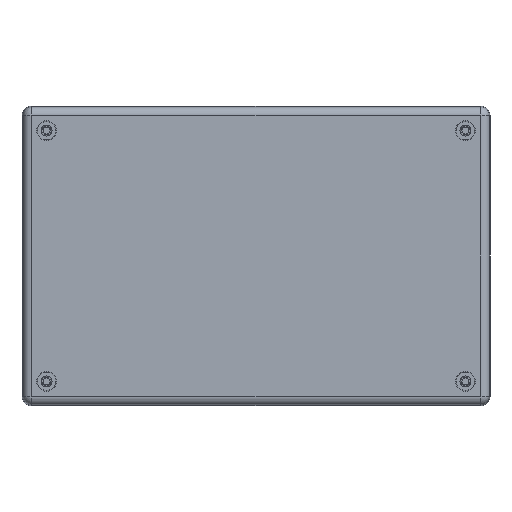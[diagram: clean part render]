
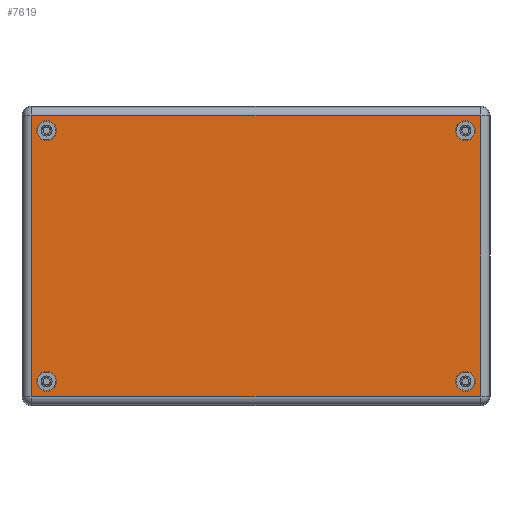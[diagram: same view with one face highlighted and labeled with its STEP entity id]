
A CAD part, front view. The second image highlights one B-rep face of the part: STEP entity #7619.
In plain terms, the highlighted planar face has unit normal (0, -1, 0).
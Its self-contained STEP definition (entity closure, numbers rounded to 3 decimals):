
#47 = DIRECTION ( 'NONE',  ( 0., -1., 0. ) ) ;
#99 = DIRECTION ( 'NONE',  ( 0., -1., 0. ) ) ;
#193 = CARTESIAN_POINT ( 'NONE',  ( -80.184, -12., -50. ) ) ;
#233 = DIRECTION ( 'NONE',  ( 0., -1., 0. ) ) ;
#250 = EDGE_CURVE ( 'NONE', #4369, #8152, #3074, .T. ) ;
#292 = DIRECTION ( 'NONE',  ( 0., 0., -1. ) ) ;
#432 = FACE_BOUND ( 'NONE', #6769, .T. ) ;
#438 = AXIS2_PLACEMENT_3D ( 'NONE', #4146, #6973, #4053 ) ;
#642 = CIRCLE ( 'NONE', #5966, 0.184 ) ;
#742 = VECTOR ( 'NONE', #8491, 1000. ) ;
#793 = DIRECTION ( 'NONE',  ( 0., 0., -1. ) ) ;
#854 = DIRECTION ( 'NONE',  ( 0., -1., 0. ) ) ;
#935 = CARTESIAN_POINT ( 'NONE',  ( -80.184, -12., -50. ) ) ;
#981 = CARTESIAN_POINT ( 'NONE',  ( -74.75, -12., -41.25 ) ) ;
#995 = VERTEX_POINT ( 'NONE', #8839 ) ;
#1219 = FACE_BOUND ( 'NONE', #6170, .T. ) ;
#1316 = CIRCLE ( 'NONE', #3988, 3.5 ) ;
#1352 = CARTESIAN_POINT ( 'NONE',  ( 74.75, -12., -48.25 ) ) ;
#1486 = CIRCLE ( 'NONE', #7119, 3.5 ) ;
#1492 = DIRECTION ( 'NONE',  ( 0., -1., 0. ) ) ;
#1497 = DIRECTION ( 'NONE',  ( 0., 0., -1. ) ) ;
#1585 = ORIENTED_EDGE ( 'NONE', *, *, #2859, .T. ) ;
#1600 = CARTESIAN_POINT ( 'NONE',  ( -74.75, -12., -44.75 ) ) ;
#1676 = VECTOR ( 'NONE', #3727, 1000. ) ;
#1681 = CARTESIAN_POINT ( 'NONE',  ( 80., -12., -50. ) ) ;
#1687 = CARTESIAN_POINT ( 'NONE',  ( 74.75, -12., 44.75 ) ) ;
#1710 = ORIENTED_EDGE ( 'NONE', *, *, #2873, .F. ) ;
#1724 = EDGE_CURVE ( 'NONE', #2335, #5703, #2212, .T. ) ;
#1734 = CARTESIAN_POINT ( 'NONE',  ( -74.75, -12., -44.75 ) ) ;
#1750 = ORIENTED_EDGE ( 'NONE', *, *, #3935, .T. ) ;
#1862 = CARTESIAN_POINT ( 'NONE',  ( 80., -12., 50. ) ) ;
#1863 = CARTESIAN_POINT ( 'NONE',  ( -74.75, -12., 48.25 ) ) ;
#1965 = DIRECTION ( 'NONE',  ( 0., -1., 0. ) ) ;
#2064 = EDGE_CURVE ( 'NONE', #7265, #5109, #5325, .T. ) ;
#2078 = CIRCLE ( 'NONE', #2790, 3.5 ) ;
#2212 = CIRCLE ( 'NONE', #5317, 0.184 ) ;
#2286 = DIRECTION ( 'NONE',  ( 0., 0., -1. ) ) ;
#2293 = EDGE_CURVE ( 'NONE', #5857, #3433, #2510, .T. ) ;
#2335 = VERTEX_POINT ( 'NONE', #2610 ) ;
#2423 = AXIS2_PLACEMENT_3D ( 'NONE', #5488, #1965, #4793 ) ;
#2510 = CIRCLE ( 'NONE', #4431, 0.184 ) ;
#2608 = EDGE_LOOP ( 'NONE', ( #6059, #6317 ) ) ;
#2610 = CARTESIAN_POINT ( 'NONE',  ( -80., -12., 50.184 ) ) ;
#2654 = VERTEX_POINT ( 'NONE', #1863 ) ;
#2661 = FACE_BOUND ( 'NONE', #2608, .T. ) ;
#2743 = EDGE_CURVE ( 'NONE', #4928, #7814, #7255, .T. ) ;
#2762 = DIRECTION ( 'NONE',  ( 0., 0., -1. ) ) ;
#2766 = DIRECTION ( 'NONE',  ( 0., 0., 1. ) ) ;
#2790 = AXIS2_PLACEMENT_3D ( 'NONE', #7853, #5670, #1497 ) ;
#2804 = EDGE_CURVE ( 'NONE', #4491, #8307, #2078, .T. ) ;
#2846 = LINE ( 'NONE', #7156, #8285 ) ;
#2858 = EDGE_CURVE ( 'NONE', #7814, #995, #4328, .T. ) ;
#2859 = EDGE_CURVE ( 'NONE', #3433, #2335, #2846, .T. ) ;
#2873 = EDGE_CURVE ( 'NONE', #8152, #4369, #5921, .T. ) ;
#2903 = DIRECTION ( 'NONE',  ( 0., 0., -1. ) ) ;
#3074 = CIRCLE ( 'NONE', #8984, 3.5 ) ;
#3104 = VECTOR ( 'NONE', #2766, 1000. ) ;
#3120 = LINE ( 'NONE', #193, #1676 ) ;
#3264 = FACE_BOUND ( 'NONE', #8936, .T. ) ;
#3433 = VERTEX_POINT ( 'NONE', #6344 ) ;
#3438 = CARTESIAN_POINT ( 'NONE',  ( 74.75, -12., 48.25 ) ) ;
#3457 = CARTESIAN_POINT ( 'NONE',  ( -80., -12., 50. ) ) ;
#3496 = CARTESIAN_POINT ( 'NONE',  ( -80., -12., -50.184 ) ) ;
#3537 = CARTESIAN_POINT ( 'NONE',  ( 74.75, -12., -44.75 ) ) ;
#3609 = ORIENTED_EDGE ( 'NONE', *, *, #250, .F. ) ;
#3688 = CARTESIAN_POINT ( 'NONE',  ( -74.75, -12., 44.75 ) ) ;
#3727 = DIRECTION ( 'NONE',  ( 0., 0., -1. ) ) ;
#3813 = CARTESIAN_POINT ( 'NONE',  ( -74.75, -12., 41.25 ) ) ;
#3935 = EDGE_CURVE ( 'NONE', #7070, #5857, #9012, .T. ) ;
#3988 = AXIS2_PLACEMENT_3D ( 'NONE', #1600, #854, #5864 ) ;
#4053 = DIRECTION ( 'NONE',  ( 0., 0., -1. ) ) ;
#4059 = ORIENTED_EDGE ( 'NONE', *, *, #4171, .F. ) ;
#4083 = ORIENTED_EDGE ( 'NONE', *, *, #7842, .T. ) ;
#4126 = EDGE_CURVE ( 'NONE', #5109, #7265, #1316, .T. ) ;
#4146 = CARTESIAN_POINT ( 'NONE',  ( -80., -12., -50. ) ) ;
#4171 = EDGE_CURVE ( 'NONE', #4991, #2654, #6510, .T. ) ;
#4226 = ORIENTED_EDGE ( 'NONE', *, *, #5456, .F. ) ;
#4241 = DIRECTION ( 'NONE',  ( -1., 0., 0. ) ) ;
#4289 = ORIENTED_EDGE ( 'NONE', *, *, #7951, .T. ) ;
#4328 = LINE ( 'NONE', #5759, #742 ) ;
#4369 = VERTEX_POINT ( 'NONE', #7483 ) ;
#4431 = AXIS2_PLACEMENT_3D ( 'NONE', #1862, #6087, #8357 ) ;
#4454 = CIRCLE ( 'NONE', #7268, 3.5 ) ;
#4476 = CARTESIAN_POINT ( 'NONE',  ( 74.75, -12., 41.25 ) ) ;
#4491 = VERTEX_POINT ( 'NONE', #4476 ) ;
#4793 = DIRECTION ( 'NONE',  ( 0., 0., -1. ) ) ;
#4928 = VERTEX_POINT ( 'NONE', #935 ) ;
#4991 = VERTEX_POINT ( 'NONE', #3813 ) ;
#5109 = VERTEX_POINT ( 'NONE', #981 ) ;
#5317 = AXIS2_PLACEMENT_3D ( 'NONE', #3457, #9106, #2762 ) ;
#5325 = CIRCLE ( 'NONE', #7540, 3.5 ) ;
#5456 = EDGE_CURVE ( 'NONE', #2654, #4991, #1486, .T. ) ;
#5488 = CARTESIAN_POINT ( 'NONE',  ( -80., -12., 50. ) ) ;
#5529 = ORIENTED_EDGE ( 'NONE', *, *, #2804, .F. ) ;
#5670 = DIRECTION ( 'NONE',  ( 0., -1., 0. ) ) ;
#5703 = VERTEX_POINT ( 'NONE', #8880 ) ;
#5750 = CARTESIAN_POINT ( 'NONE',  ( -74.75, -12., 44.75 ) ) ;
#5759 = CARTESIAN_POINT ( 'NONE',  ( 80., -12., -50.184 ) ) ;
#5857 = VERTEX_POINT ( 'NONE', #6712 ) ;
#5864 = DIRECTION ( 'NONE',  ( 0., 0., -1. ) ) ;
#5913 = AXIS2_PLACEMENT_3D ( 'NONE', #3688, #7820, #2903 ) ;
#5921 = CIRCLE ( 'NONE', #8260, 3.5 ) ;
#5966 = AXIS2_PLACEMENT_3D ( 'NONE', #1681, #233, #5990 ) ;
#5990 = DIRECTION ( 'NONE',  ( 0., 0., -1. ) ) ;
#6059 = ORIENTED_EDGE ( 'NONE', *, *, #2064, .F. ) ;
#6079 = DIRECTION ( 'NONE',  ( 0., -1., 0. ) ) ;
#6084 = EDGE_CURVE ( 'NONE', #8307, #4491, #4454, .T. ) ;
#6087 = DIRECTION ( 'NONE',  ( 0., -1., 0. ) ) ;
#6091 = FACE_OUTER_BOUND ( 'NONE', #6379, .T. ) ;
#6170 = EDGE_LOOP ( 'NONE', ( #1710, #3609 ) ) ;
#6177 = PLANE ( 'NONE',  #2423 ) ;
#6317 = ORIENTED_EDGE ( 'NONE', *, *, #4126, .F. ) ;
#6344 = CARTESIAN_POINT ( 'NONE',  ( 80., -12., 50.184 ) ) ;
#6379 = EDGE_LOOP ( 'NONE', ( #8533, #1585, #6875, #4083, #6395, #7915, #4289, #1750 ) ) ;
#6395 = ORIENTED_EDGE ( 'NONE', *, *, #2743, .T. ) ;
#6510 = CIRCLE ( 'NONE', #5913, 3.5 ) ;
#6696 = DIRECTION ( 'NONE',  ( 0., -1., 0. ) ) ;
#6712 = CARTESIAN_POINT ( 'NONE',  ( 80.184, -12., 50. ) ) ;
#6769 = EDGE_LOOP ( 'NONE', ( #5529, #8339 ) ) ;
#6875 = ORIENTED_EDGE ( 'NONE', *, *, #1724, .T. ) ;
#6973 = DIRECTION ( 'NONE',  ( 0., -1., 0. ) ) ;
#7064 = DIRECTION ( 'NONE',  ( 0., 0., -1. ) ) ;
#7070 = VERTEX_POINT ( 'NONE', #8185 ) ;
#7119 = AXIS2_PLACEMENT_3D ( 'NONE', #5750, #47, #793 ) ;
#7156 = CARTESIAN_POINT ( 'NONE',  ( -80., -12., 50.184 ) ) ;
#7255 = CIRCLE ( 'NONE', #438, 0.184 ) ;
#7265 = VERTEX_POINT ( 'NONE', #9109 ) ;
#7268 = AXIS2_PLACEMENT_3D ( 'NONE', #1687, #6079, #8900 ) ;
#7483 = CARTESIAN_POINT ( 'NONE',  ( 74.75, -12., -41.25 ) ) ;
#7540 = AXIS2_PLACEMENT_3D ( 'NONE', #1734, #6696, #292 ) ;
#7619 = ADVANCED_FACE ( 'NONE', ( #2661, #1219, #432, #3264, #6091 ), #6177, .T. ) ;
#7640 = CARTESIAN_POINT ( 'NONE',  ( 80.184, -12., 50. ) ) ;
#7814 = VERTEX_POINT ( 'NONE', #3496 ) ;
#7820 = DIRECTION ( 'NONE',  ( 0., -1., 0. ) ) ;
#7842 = EDGE_CURVE ( 'NONE', #5703, #4928, #3120, .T. ) ;
#7853 = CARTESIAN_POINT ( 'NONE',  ( 74.75, -12., 44.75 ) ) ;
#7915 = ORIENTED_EDGE ( 'NONE', *, *, #2858, .T. ) ;
#7940 = CARTESIAN_POINT ( 'NONE',  ( 74.75, -12., -44.75 ) ) ;
#7951 = EDGE_CURVE ( 'NONE', #995, #7070, #642, .T. ) ;
#8152 = VERTEX_POINT ( 'NONE', #1352 ) ;
#8185 = CARTESIAN_POINT ( 'NONE',  ( 80.184, -12., -50. ) ) ;
#8260 = AXIS2_PLACEMENT_3D ( 'NONE', #3537, #99, #7064 ) ;
#8285 = VECTOR ( 'NONE', #4241, 1000. ) ;
#8307 = VERTEX_POINT ( 'NONE', #3438 ) ;
#8339 = ORIENTED_EDGE ( 'NONE', *, *, #6084, .F. ) ;
#8357 = DIRECTION ( 'NONE',  ( 0., 0., -1. ) ) ;
#8491 = DIRECTION ( 'NONE',  ( 1., 0., 0. ) ) ;
#8533 = ORIENTED_EDGE ( 'NONE', *, *, #2293, .T. ) ;
#8839 = CARTESIAN_POINT ( 'NONE',  ( 80., -12., -50.184 ) ) ;
#8880 = CARTESIAN_POINT ( 'NONE',  ( -80.184, -12., 50. ) ) ;
#8900 = DIRECTION ( 'NONE',  ( 0., 0., -1. ) ) ;
#8936 = EDGE_LOOP ( 'NONE', ( #4059, #4226 ) ) ;
#8984 = AXIS2_PLACEMENT_3D ( 'NONE', #7940, #1492, #2286 ) ;
#9012 = LINE ( 'NONE', #7640, #3104 ) ;
#9106 = DIRECTION ( 'NONE',  ( 0., -1., 0. ) ) ;
#9109 = CARTESIAN_POINT ( 'NONE',  ( -74.75, -12., -48.25 ) ) ;
